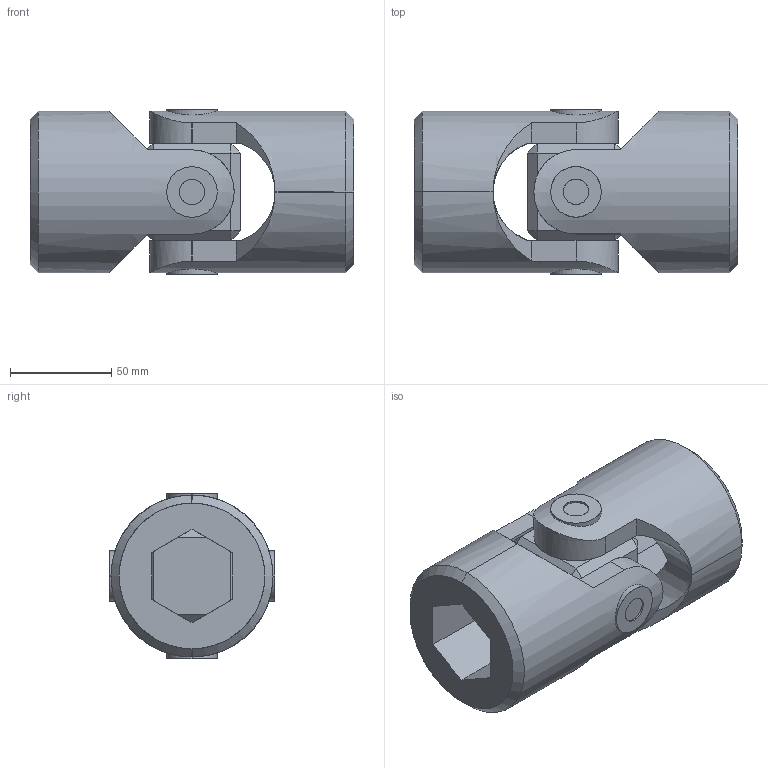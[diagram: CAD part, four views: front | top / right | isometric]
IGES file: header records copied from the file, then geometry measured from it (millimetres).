
Start section: SolidWorks IGES file using analytic representation for surfaces
Global section: file name: C:\Users\IanO\Desktop\R3690_v2\R3690_v2_20231020_IGES\R3690.040-HB.igs; native system: SolidWorks 2019; preprocessor: SolidWorks 2019; author: IanO; date: 231020.152857; units: millimetre
Bounding box: 160 x 81.6 x 81.6 mm (x, y, z)
Surface area: 99692.1 mm2 (no closed solid volume)
Topology: 0 solids, 0 shells, 112 faces, 2360 edges, 2360 vertices
Faces by surface type: bspline 68, revolution 44
